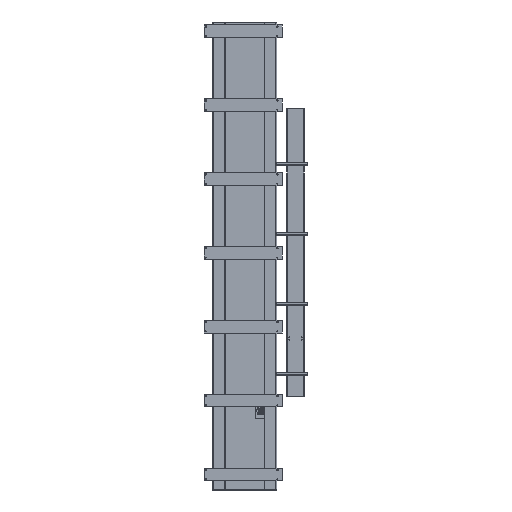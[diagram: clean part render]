
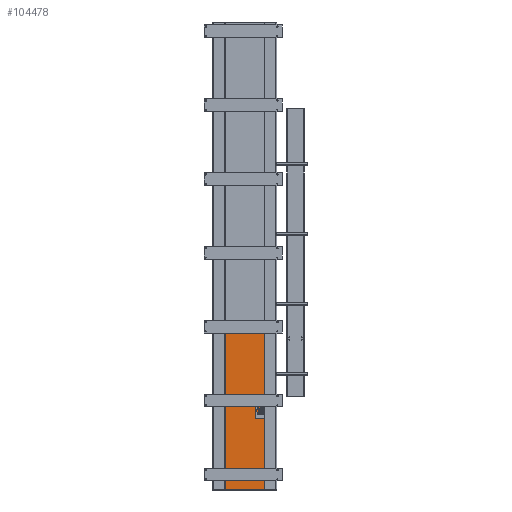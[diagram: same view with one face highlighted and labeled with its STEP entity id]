
A CAD part, front view. The second image highlights one B-rep face of the part: STEP entity #104478.
In plain terms, the highlighted planar face has unit normal (0, -1, 0).
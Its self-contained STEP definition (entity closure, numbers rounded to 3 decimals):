
#12459 = AXIS2_PLACEMENT_3D ( 'NONE', #222407, #324967, #420412 ) ;
#24349 = PLANE ( 'NONE',  #12459 ) ;
#27684 = LINE ( 'NONE', #339460, #405576 ) ;
#46515 = ORIENTED_EDGE ( 'NONE', *, *, #350422, .F. ) ;
#49662 = LINE ( 'NONE', #182365, #102287 ) ;
#49790 = EDGE_CURVE ( 'NONE', #233411, #81745, #27684, .T. ) ;
#68253 = DIRECTION ( 'NONE',  ( 0., 0., -1. ) ) ;
#81745 = VERTEX_POINT ( 'NONE', #126622 ) ;
#94699 = EDGE_LOOP ( 'NONE', ( #46515, #98558, #285961, #115776 ) ) ;
#98558 = ORIENTED_EDGE ( 'NONE', *, *, #180376, .F. ) ;
#102287 = VECTOR ( 'NONE', #317219, 1000. ) ;
#104478 = ADVANCED_FACE ( 'NONE', ( #359787 ), #24349, .T. ) ;
#115776 = ORIENTED_EDGE ( 'NONE', *, *, #303048, .F. ) ;
#126622 = CARTESIAN_POINT ( 'NONE',  ( 500., 0., -2000. ) ) ;
#127011 = CARTESIAN_POINT ( 'NONE',  ( 500., 0., 0. ) ) ;
#155664 = VECTOR ( 'NONE', #428949, 1000. ) ;
#180376 = EDGE_CURVE ( 'NONE', #81745, #428222, #386678, .T. ) ;
#182365 = CARTESIAN_POINT ( 'NONE',  ( 0., 0., 0. ) ) ;
#198389 = CARTESIAN_POINT ( 'NONE',  ( 0., 0., 0. ) ) ;
#217144 = CARTESIAN_POINT ( 'NONE',  ( 0., 0., 0. ) ) ;
#222407 = CARTESIAN_POINT ( 'NONE',  ( 0., 0., 0. ) ) ;
#233411 = VERTEX_POINT ( 'NONE', #127011 ) ;
#280989 = LINE ( 'NONE', #198389, #307135 ) ;
#285961 = ORIENTED_EDGE ( 'NONE', *, *, #49790, .F. ) ;
#299767 = CARTESIAN_POINT ( 'NONE',  ( 0., 0., -2000. ) ) ;
#303048 = EDGE_CURVE ( 'NONE', #371251, #233411, #280989, .T. ) ;
#307135 = VECTOR ( 'NONE', #433001, 1000. ) ;
#317219 = DIRECTION ( 'NONE',  ( 0., 0., 1. ) ) ;
#324967 = DIRECTION ( 'NONE',  ( 0., -1., 0. ) ) ;
#339460 = CARTESIAN_POINT ( 'NONE',  ( 500., 0., 0. ) ) ;
#350422 = EDGE_CURVE ( 'NONE', #428222, #371251, #49662, .T. ) ;
#359787 = FACE_OUTER_BOUND ( 'NONE', #94699, .T. ) ;
#371251 = VERTEX_POINT ( 'NONE', #217144 ) ;
#386678 = LINE ( 'NONE', #299767, #155664 ) ;
#405576 = VECTOR ( 'NONE', #68253, 1000. ) ;
#420412 = DIRECTION ( 'NONE',  ( 0., 0., -1. ) ) ;
#428222 = VERTEX_POINT ( 'NONE', #429131 ) ;
#428949 = DIRECTION ( 'NONE',  ( -1., 0., 0. ) ) ;
#429131 = CARTESIAN_POINT ( 'NONE',  ( 0., 0., -2000. ) ) ;
#433001 = DIRECTION ( 'NONE',  ( 1., 0., 0. ) ) ;
